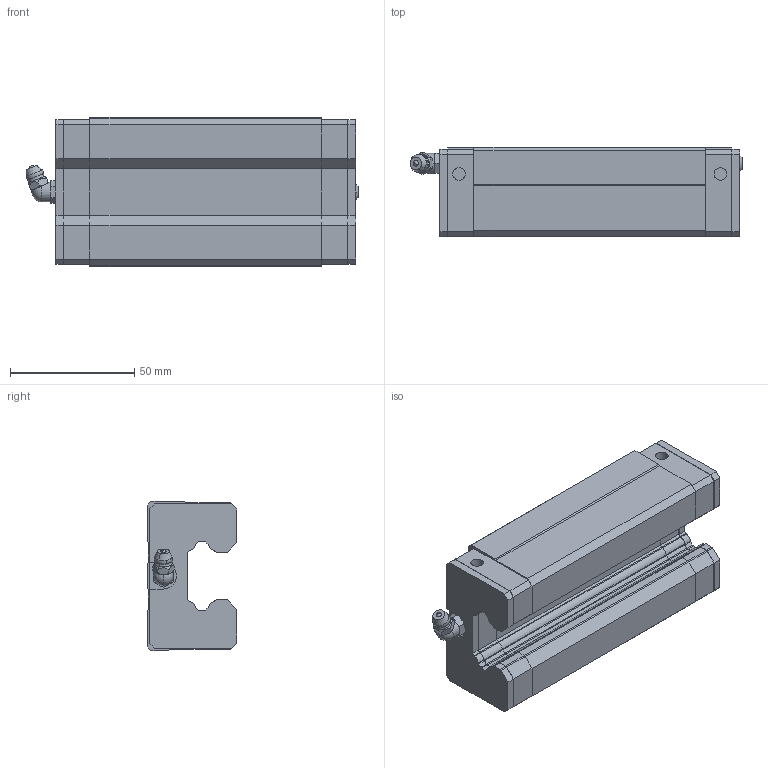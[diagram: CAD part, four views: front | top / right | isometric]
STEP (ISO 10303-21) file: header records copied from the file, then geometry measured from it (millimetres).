
FILE_DESCRIPTION (( 'STEP AP203' ), '1' );
FILE_NAME ('SGL30HA.STEP', '2025-06-27T05:25:27', ( 'Owner' ), ( 'Organization' ), 'SwSTEP 2.0', 'SolidWorks 2020', '' );
FILE_SCHEMA (( 'CONFIG_CONTROL_DESIGN' ));
Length unit declared in the file: millimetre
Products named in the file (1): SGL30HA
Bounding box: 133.4 x 36 x 60 mm (x, y, z)
Volume: 196584 mm3; surface area: 46199.3 mm2
Topology: 7 solids, 8 shells, 466 faces, 1243 edges, 799 vertices
Faces by surface type: plane 251, cylinder 148, cone 52, torus 7, sphere 6, bspline 2
Entity records: 14884 total; most frequent: CARTESIAN_POINT 3106, ORIENTED_EDGE 2462, DIRECTION 2460, EDGE_CURVE 1231, AXIS2_PLACEMENT_3D 832, VERTEX_POINT 797, VECTOR 796, LINE 796
